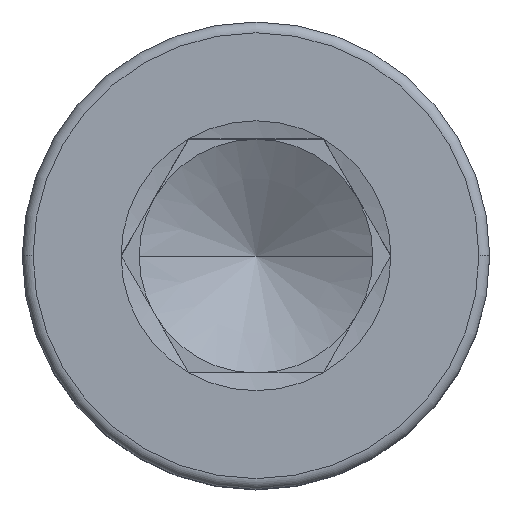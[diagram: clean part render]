
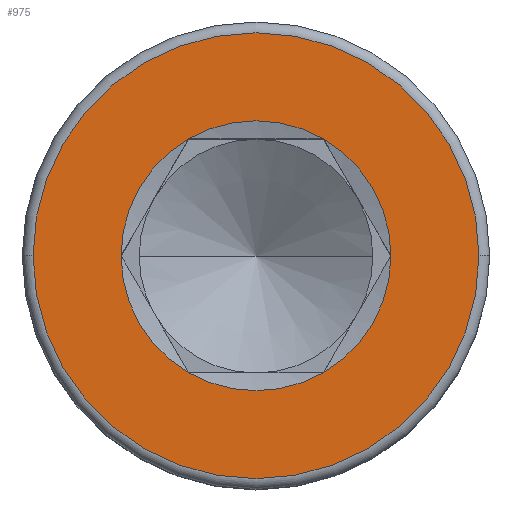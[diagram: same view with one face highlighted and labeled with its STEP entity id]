
A CAD part, top view. The second image highlights one B-rep face of the part: STEP entity #975.
In plain terms, the highlighted planar face has unit normal (0, 0, 1).
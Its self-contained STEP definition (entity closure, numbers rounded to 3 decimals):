
#45 = VERTEX_POINT ( 'NONE', #699 ) ;
#67 = CIRCLE ( 'NONE', #1688, 4.619 ) ;
#73 = DIRECTION ( 'NONE',  ( 0., 0., 1. ) ) ;
#125 = AXIS2_PLACEMENT_3D ( 'NONE', #850, #1416, #1573 ) ;
#132 = CARTESIAN_POINT ( 'NONE',  ( -2.309, -4., 10. ) ) ;
#142 = CARTESIAN_POINT ( 'NONE',  ( 0., 0., 10. ) ) ;
#162 = CARTESIAN_POINT ( 'NONE',  ( 2.309, -4., 10. ) ) ;
#203 = CARTESIAN_POINT ( 'NONE',  ( 0., 0., 10. ) ) ;
#258 = EDGE_CURVE ( 'NONE', #45, #860, #1021, .T. ) ;
#280 = DIRECTION ( 'NONE',  ( 1., 0., 0. ) ) ;
#316 = FACE_OUTER_BOUND ( 'NONE', #1753, .T. ) ;
#345 = EDGE_CURVE ( 'NONE', #1379, #1790, #67, .T. ) ;
#423 = CIRCLE ( 'NONE', #648, 4.619 ) ;
#429 = CARTESIAN_POINT ( 'NONE',  ( 7.63, 0., 10. ) ) ;
#432 = CARTESIAN_POINT ( 'NONE',  ( 4.619, 0., 10. ) ) ;
#470 = AXIS2_PLACEMENT_3D ( 'NONE', #203, #1438, #608 ) ;
#477 = FACE_BOUND ( 'NONE', #1711, .T. ) ;
#508 = EDGE_CURVE ( 'NONE', #814, #1289, #933, .T. ) ;
#555 = EDGE_CURVE ( 'NONE', #1420, #1379, #1547, .T. ) ;
#569 = CIRCLE ( 'NONE', #1028, 4.619 ) ;
#599 = AXIS2_PLACEMENT_3D ( 'NONE', #1659, #668, #830 ) ;
#608 = DIRECTION ( 'NONE',  ( 1., 0., 0. ) ) ;
#610 = ORIENTED_EDGE ( 'NONE', *, *, #345, .F. ) ;
#648 = AXIS2_PLACEMENT_3D ( 'NONE', #1691, #1136, #1013 ) ;
#659 = DIRECTION ( 'NONE',  ( 0., 0., 1. ) ) ;
#668 = DIRECTION ( 'NONE',  ( 0., 0., 1. ) ) ;
#683 = CARTESIAN_POINT ( 'NONE',  ( -2.309, 4., 10. ) ) ;
#699 = CARTESIAN_POINT ( 'NONE',  ( -4.619, 0., 10. ) ) ;
#760 = DIRECTION ( 'NONE',  ( 1., 0., 0. ) ) ;
#763 = AXIS2_PLACEMENT_3D ( 'NONE', #142, #1678, #280 ) ;
#786 = CARTESIAN_POINT ( 'NONE',  ( 0., 0., 10. ) ) ;
#794 = ORIENTED_EDGE ( 'NONE', *, *, #894, .F. ) ;
#814 = VERTEX_POINT ( 'NONE', #429 ) ;
#830 = DIRECTION ( 'NONE',  ( 1., 0., 0. ) ) ;
#850 = CARTESIAN_POINT ( 'NONE',  ( 0., 0., 10. ) ) ;
#860 = VERTEX_POINT ( 'NONE', #132 ) ;
#884 = PLANE ( 'NONE',  #125 ) ;
#892 = DIRECTION ( 'NONE',  ( 0., 0., 1. ) ) ;
#894 = EDGE_CURVE ( 'NONE', #860, #1420, #423, .T. ) ;
#929 = CARTESIAN_POINT ( 'NONE',  ( 0., 0., 10. ) ) ;
#933 = CIRCLE ( 'NONE', #1192, 7.63 ) ;
#938 = AXIS2_PLACEMENT_3D ( 'NONE', #1444, #73, #1588 ) ;
#975 = ADVANCED_FACE ( 'NONE', ( #316, #477 ), #884, .T. ) ;
#998 = CARTESIAN_POINT ( 'NONE',  ( 0., 0., 10. ) ) ;
#1013 = DIRECTION ( 'NONE',  ( 1., 0., 0. ) ) ;
#1021 = CIRCLE ( 'NONE', #470, 4.619 ) ;
#1028 = AXIS2_PLACEMENT_3D ( 'NONE', #786, #1038, #760 ) ;
#1038 = DIRECTION ( 'NONE',  ( 0., 0., 1. ) ) ;
#1094 = CARTESIAN_POINT ( 'NONE',  ( -7.63, 0., 10. ) ) ;
#1101 = ORIENTED_EDGE ( 'NONE', *, *, #555, .F. ) ;
#1136 = DIRECTION ( 'NONE',  ( 0., 0., 1. ) ) ;
#1175 = ORIENTED_EDGE ( 'NONE', *, *, #1561, .T. ) ;
#1177 = VERTEX_POINT ( 'NONE', #683 ) ;
#1192 = AXIS2_PLACEMENT_3D ( 'NONE', #998, #892, #1418 ) ;
#1289 = VERTEX_POINT ( 'NONE', #1094 ) ;
#1379 = VERTEX_POINT ( 'NONE', #432 ) ;
#1407 = ORIENTED_EDGE ( 'NONE', *, *, #258, .F. ) ;
#1416 = DIRECTION ( 'NONE',  ( 0., 0., 1. ) ) ;
#1418 = DIRECTION ( 'NONE',  ( 1., 0., 0. ) ) ;
#1420 = VERTEX_POINT ( 'NONE', #162 ) ;
#1438 = DIRECTION ( 'NONE',  ( 0., 0., 1. ) ) ;
#1444 = CARTESIAN_POINT ( 'NONE',  ( 0., 0., 10. ) ) ;
#1467 = CIRCLE ( 'NONE', #599, 4.619 ) ;
#1486 = CARTESIAN_POINT ( 'NONE',  ( 2.309, 4., 10. ) ) ;
#1518 = EDGE_CURVE ( 'NONE', #1790, #1177, #569, .T. ) ;
#1547 = CIRCLE ( 'NONE', #763, 4.619 ) ;
#1561 = EDGE_CURVE ( 'NONE', #1289, #814, #1719, .T. ) ;
#1573 = DIRECTION ( 'NONE',  ( 1., 0., 0. ) ) ;
#1588 = DIRECTION ( 'NONE',  ( 1., 0., 0. ) ) ;
#1631 = ORIENTED_EDGE ( 'NONE', *, *, #1518, .F. ) ;
#1659 = CARTESIAN_POINT ( 'NONE',  ( 0., 0., 10. ) ) ;
#1672 = ORIENTED_EDGE ( 'NONE', *, *, #508, .T. ) ;
#1678 = DIRECTION ( 'NONE',  ( 0., 0., 1. ) ) ;
#1688 = AXIS2_PLACEMENT_3D ( 'NONE', #929, #659, #1764 ) ;
#1691 = CARTESIAN_POINT ( 'NONE',  ( 0., 0., 10. ) ) ;
#1699 = ORIENTED_EDGE ( 'NONE', *, *, #1746, .F. ) ;
#1711 = EDGE_LOOP ( 'NONE', ( #610, #1101, #794, #1407, #1699, #1631 ) ) ;
#1719 = CIRCLE ( 'NONE', #938, 7.63 ) ;
#1746 = EDGE_CURVE ( 'NONE', #1177, #45, #1467, .T. ) ;
#1753 = EDGE_LOOP ( 'NONE', ( #1672, #1175 ) ) ;
#1764 = DIRECTION ( 'NONE',  ( 1., 0., 0. ) ) ;
#1790 = VERTEX_POINT ( 'NONE', #1486 ) ;
